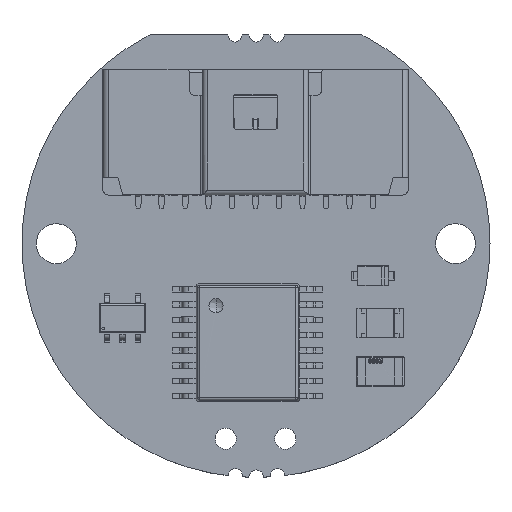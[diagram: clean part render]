
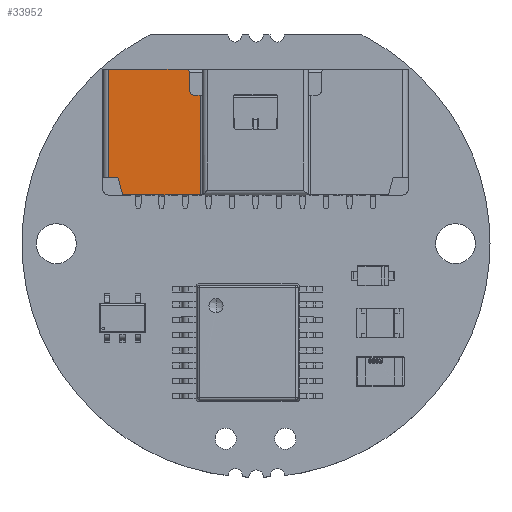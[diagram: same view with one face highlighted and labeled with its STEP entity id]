
A CAD part, top view. The second image highlights one B-rep face of the part: STEP entity #33952.
In plain terms, the highlighted planar face has unit normal (0, 0, 1).
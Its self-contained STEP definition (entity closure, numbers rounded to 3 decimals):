
#22353 = VERTEX_POINT ( 'NONE', #24251 ) ;
#22362 = VERTEX_POINT ( 'NONE', #24254 ) ;
#22480 = EDGE_CURVE ( 'NONE', #22353, #22362, #24625, .T. ) ;
#24251 = CARTESIAN_POINT ( 'NONE',  ( -5.86, -1.925, 1.6 ) ) ;
#24254 = CARTESIAN_POINT ( 'NONE',  ( -5.66, -2.675, 1.6 ) ) ;
#24611 = DIRECTION ( 'NONE',  ( 0.258, -0.966, 0. ) ) ;
#24613 = VECTOR ( 'NONE', #24611, 1000. ) ;
#24615 = CARTESIAN_POINT ( 'NONE',  ( -5.66, -2.675, 1.6 ) ) ;
#24625 = LINE ( 'NONE', #24615, #24613 ) ;
#33692 = ORIENTED_EDGE ( 'NONE', *, *, #78694, .T. ) ;
#33829 = ORIENTED_EDGE ( 'NONE', *, *, #33928, .F. ) ;
#33853 = ORIENTED_EDGE ( 'NONE', *, *, #78375, .T. ) ;
#33880 = ORIENTED_EDGE ( 'NONE', *, *, #22480, .T. ) ;
#33907 = ORIENTED_EDGE ( 'NONE', *, *, #33948, .F. ) ;
#33909 = ORIENTED_EDGE ( 'NONE', *, *, #78448, .T. ) ;
#33928 = EDGE_CURVE ( 'NONE', #78075, #34015, #35782, .T. ) ;
#33934 = ORIENTED_EDGE ( 'NONE', *, *, #78269, .T. ) ;
#33948 = EDGE_CURVE ( 'NONE', #34015, #78645, #35774, .T. ) ;
#33952 = ADVANCED_FACE ( 'NONE', ( #35780 ), #35796, .T. ) ;
#33964 = ORIENTED_EDGE ( 'NONE', *, *, #78476, .T. ) ;
#34015 = VERTEX_POINT ( 'NONE', #35821 ) ;
#34027 = ORIENTED_EDGE ( 'NONE', *, *, #99544, .T. ) ;
#34055 = ORIENTED_EDGE ( 'NONE', *, *, #81104, .T. ) ;
#34068 = EDGE_LOOP ( 'NONE', ( #33692, #33907, #33829, #33853, #34027, #33880, #34055, #33934, #33964, #33909 ) ) ;
#35733 = CARTESIAN_POINT ( 'NONE',  ( -3., 2.475, 1.6 ) ) ;
#35764 = DIRECTION ( 'NONE',  ( 0., 0., 1. ) ) ;
#35765 = CARTESIAN_POINT ( 'NONE',  ( -6.5, -2.675, 1.6 ) ) ;
#35768 = DIRECTION ( 'NONE',  ( 1., 0., 0. ) ) ;
#35769 = AXIS2_PLACEMENT_3D ( 'NONE', #35733, #35829, #35828 ) ;
#35774 = CIRCLE ( 'NONE', #35769, 0.2 ) ;
#35780 = FACE_OUTER_BOUND ( 'NONE', #34068, .T. ) ;
#35782 = LINE ( 'NONE', #35784, #35783 ) ;
#35783 = VECTOR ( 'NONE', #35768, 1000. ) ;
#35784 = CARTESIAN_POINT ( 'NONE',  ( 0., 2.675, 1.6 ) ) ;
#35796 = PLANE ( 'NONE',  #35832 ) ;
#35821 = CARTESIAN_POINT ( 'NONE',  ( -3., 2.675, 1.6 ) ) ;
#35825 = DIRECTION ( 'NONE',  ( 1., 0., 0. ) ) ;
#35828 = DIRECTION ( 'NONE',  ( -1., 0., 0. ) ) ;
#35829 = DIRECTION ( 'NONE',  ( 0., 0., -1. ) ) ;
#35832 = AXIS2_PLACEMENT_3D ( 'NONE', #35765, #35764, #35825 ) ;
#58608 = CARTESIAN_POINT ( 'NONE',  ( -6.25, 2.675, 1.6 ) ) ;
#59208 = LINE ( 'NONE', #59271, #59270 ) ;
#59269 = DIRECTION ( 'NONE',  ( 0., 1., 0. ) ) ;
#59270 = VECTOR ( 'NONE', #59269, 1000. ) ;
#59271 = CARTESIAN_POINT ( 'NONE',  ( -2.35, -2.675, 1.6 ) ) ;
#59413 = LINE ( 'NONE', #59452, #59449 ) ;
#59421 = CARTESIAN_POINT ( 'NONE',  ( -2.35, 1.575, 1.6 ) ) ;
#59448 = DIRECTION ( 'NONE',  ( 0., -1., 0. ) ) ;
#59449 = VECTOR ( 'NONE', #59448, 1000. ) ;
#59452 = CARTESIAN_POINT ( 'NONE',  ( -6.25, -2.675, 1.6 ) ) ;
#59545 = CARTESIAN_POINT ( 'NONE',  ( -2.6, 1.775, 1.6 ) ) ;
#59561 = CARTESIAN_POINT ( 'NONE',  ( -2.35, -2.675, 1.6 ) ) ;
#59570 = CIRCLE ( 'NONE', #59580, 0.2 ) ;
#59580 = AXIS2_PLACEMENT_3D ( 'NONE', #59545, #59619, #59618 ) ;
#59618 = DIRECTION ( 'NONE',  ( -1., 0., 0. ) ) ;
#59619 = DIRECTION ( 'NONE',  ( 0., 0., -1. ) ) ;
#59648 = CARTESIAN_POINT ( 'NONE',  ( -2.6, 1.575, 1.6 ) ) ;
#59658 = DIRECTION ( 'NONE',  ( -1., 0., 0. ) ) ;
#59659 = VECTOR ( 'NONE', #59658, 1000. ) ;
#59660 = CARTESIAN_POINT ( 'NONE',  ( -6.5, 1.575, 1.6 ) ) ;
#59661 = LINE ( 'NONE', #59660, #59659 ) ;
#60066 = CARTESIAN_POINT ( 'NONE',  ( -2.8, 2.475, 1.6 ) ) ;
#60216 = DIRECTION ( 'NONE',  ( 0., 1., 0. ) ) ;
#60217 = VECTOR ( 'NONE', #60216, 1000. ) ;
#60225 = CARTESIAN_POINT ( 'NONE',  ( -2.8, -2.675, 1.6 ) ) ;
#60226 = LINE ( 'NONE', #60225, #60217 ) ;
#61862 = DIRECTION ( 'NONE',  ( 1., 0., 0. ) ) ;
#61863 = VECTOR ( 'NONE', #61862, 1000. ) ;
#61864 = CARTESIAN_POINT ( 'NONE',  ( -6.5, -2.675, 1.6 ) ) ;
#61869 = LINE ( 'NONE', #61864, #61863 ) ;
#73164 = CARTESIAN_POINT ( 'NONE',  ( -2.8, 1.775, 1.6 ) ) ;
#73730 = DIRECTION ( 'NONE',  ( 1., 0., 0. ) ) ;
#73731 = VECTOR ( 'NONE', #73730, 1000. ) ;
#73732 = CARTESIAN_POINT ( 'NONE',  ( -5.86, -1.925, 1.6 ) ) ;
#73733 = LINE ( 'NONE', #73732, #73731 ) ;
#73754 = CARTESIAN_POINT ( 'NONE',  ( -6.25, -1.925, 1.6 ) ) ;
#78075 = VERTEX_POINT ( 'NONE', #58608 ) ;
#78269 = EDGE_CURVE ( 'NONE', #78473, #78367, #59208, .T. ) ;
#78367 = VERTEX_POINT ( 'NONE', #59421 ) ;
#78375 = EDGE_CURVE ( 'NONE', #78075, #99850, #59413, .T. ) ;
#78448 = EDGE_CURVE ( 'NONE', #78483, #97807, #59570, .T. ) ;
#78473 = VERTEX_POINT ( 'NONE', #59561 ) ;
#78476 = EDGE_CURVE ( 'NONE', #78367, #78483, #59661, .T. ) ;
#78483 = VERTEX_POINT ( 'NONE', #59648 ) ;
#78645 = VERTEX_POINT ( 'NONE', #60066 ) ;
#78694 = EDGE_CURVE ( 'NONE', #97807, #78645, #60226, .T. ) ;
#81104 = EDGE_CURVE ( 'NONE', #22362, #78473, #61869, .T. ) ;
#97807 = VERTEX_POINT ( 'NONE', #73164 ) ;
#99544 = EDGE_CURVE ( 'NONE', #99850, #22353, #73733, .T. ) ;
#99850 = VERTEX_POINT ( 'NONE', #73754 ) ;
